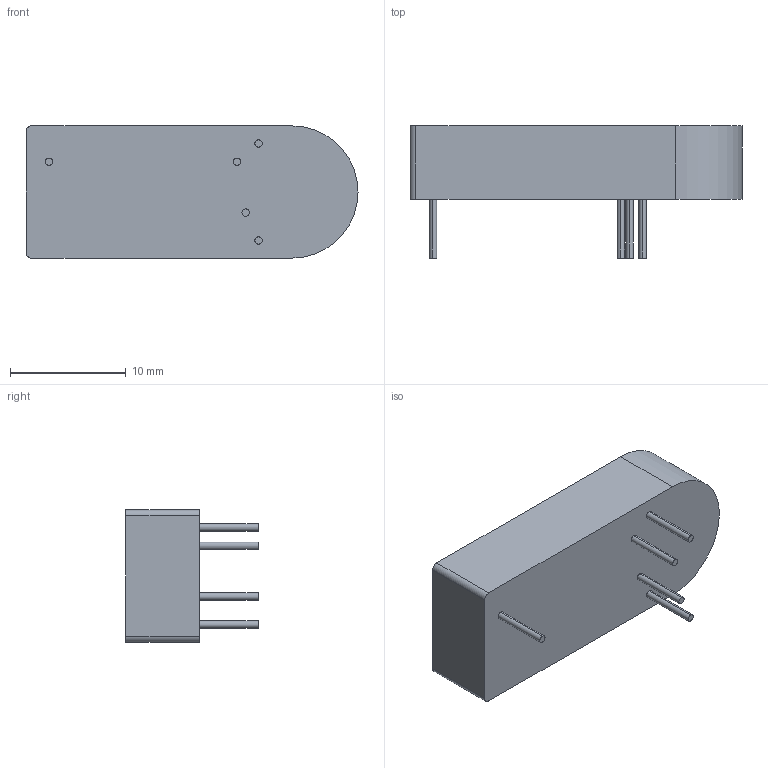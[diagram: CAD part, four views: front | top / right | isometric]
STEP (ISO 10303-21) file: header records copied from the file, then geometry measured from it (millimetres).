
FILE_DESCRIPTION (( 'STEP AP214' ), '1' );
FILE_NAME ('A30-50.STEP', '2017-10-16T22:53:14', ( '' ), ( '' ), 'SwSTEP 2.0', 'SolidWorks 2017', '' );
FILE_SCHEMA (( 'AUTOMOTIVE_DESIGN' ));
Length unit declared in the file: inch
Products named in the file (1): A30-50
Bounding box: 28.68 x 11.43 x 11.43 mm (x, y, z)
Volume: 1999.7 mm3; surface area: 1153.4 mm2
Topology: 1 solids, 1 shells, 23 faces, 48 edges, 32 vertices
Faces by surface type: cylinder 13, plane 10
Entity records: 772 total; most frequent: DIRECTION 122, CARTESIAN_POINT 104, ORIENTED_EDGE 96, AXIS2_PLACEMENT_3D 50, EDGE_CURVE 48, VERTEX_POINT 32, EDGE_LOOP 28, CIRCLE 26
